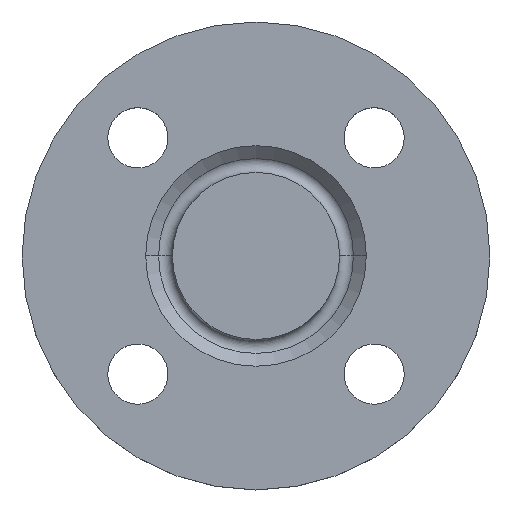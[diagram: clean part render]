
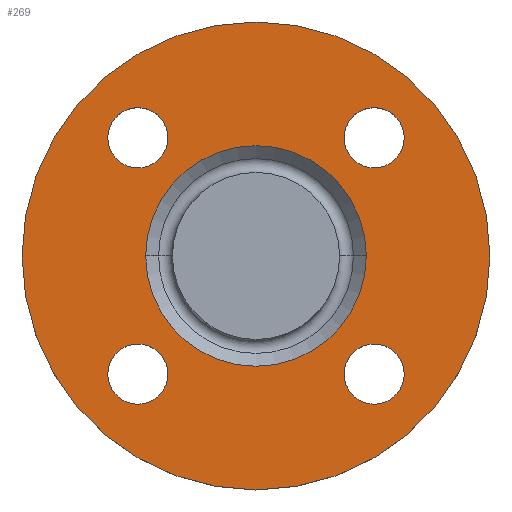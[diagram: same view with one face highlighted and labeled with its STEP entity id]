
A CAD part, top view. The second image highlights one B-rep face of the part: STEP entity #269.
In plain terms, the highlighted planar face has unit normal (0, 0, 1).
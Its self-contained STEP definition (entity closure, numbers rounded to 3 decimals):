
#12 = AXIS2_PLACEMENT_3D ( 'NONE', #438, #662, #146 ) ;
#15 = AXIS2_PLACEMENT_3D ( 'NONE', #148, #101, #336 ) ;
#27 = CARTESIAN_POINT ( 'NONE',  ( -35.355, 35.355, -2. ) ) ;
#30 = CARTESIAN_POINT ( 'NONE',  ( 35.355, 35.355, -2. ) ) ;
#43 = AXIS2_PLACEMENT_3D ( 'NONE', #199, #437, #661 ) ;
#45 = DIRECTION ( 'NONE',  ( 0., 0., -1. ) ) ;
#61 = ORIENTED_EDGE ( 'NONE', *, *, #499, .T. ) ;
#62 = EDGE_LOOP ( 'NONE', ( #95, #61 ) ) ;
#68 = ORIENTED_EDGE ( 'NONE', *, *, #669, .T. ) ;
#73 = AXIS2_PLACEMENT_3D ( 'NONE', #30, #270, #495 ) ;
#75 = CARTESIAN_POINT ( 'NONE',  ( 70., 0., -2. ) ) ;
#78 = CARTESIAN_POINT ( 'NONE',  ( -44.355, 35.355, -2. ) ) ;
#83 = DIRECTION ( 'NONE',  ( -1., 0., 0. ) ) ;
#90 = ORIENTED_EDGE ( 'NONE', *, *, #655, .T. ) ;
#94 = EDGE_CURVE ( 'NONE', #402, #212, #279, .T. ) ;
#95 = ORIENTED_EDGE ( 'NONE', *, *, #597, .T. ) ;
#101 = DIRECTION ( 'NONE',  ( 0., 0., -1. ) ) ;
#102 = AXIS2_PLACEMENT_3D ( 'NONE', #376, #602, #83 ) ;
#114 = DIRECTION ( 'NONE',  ( 0., 0., -1. ) ) ;
#115 = CARTESIAN_POINT ( 'NONE',  ( 0., 0., -2. ) ) ;
#116 = CIRCLE ( 'NONE', #215, 70. ) ;
#118 = ORIENTED_EDGE ( 'NONE', *, *, #436, .F. ) ;
#124 = CARTESIAN_POINT ( 'NONE',  ( 44.355, -35.355, -2. ) ) ;
#128 = VERTEX_POINT ( 'NONE', #289 ) ;
#138 = FACE_BOUND ( 'NONE', #724, .T. ) ;
#146 = DIRECTION ( 'NONE',  ( -1., 0., 0. ) ) ;
#148 = CARTESIAN_POINT ( 'NONE',  ( -35.355, 35.355, -2. ) ) ;
#153 = CIRCLE ( 'NONE', #562, 9. ) ;
#162 = CARTESIAN_POINT ( 'NONE',  ( 35.355, -35.355, -2. ) ) ;
#164 = CARTESIAN_POINT ( 'NONE',  ( 35.355, -35.355, -2. ) ) ;
#172 = EDGE_LOOP ( 'NONE', ( #296, #316 ) ) ;
#177 = DIRECTION ( 'NONE',  ( 1., 0., 0. ) ) ;
#191 = CARTESIAN_POINT ( 'NONE',  ( 26.355, -35.355, -2. ) ) ;
#192 = FACE_BOUND ( 'NONE', #62, .T. ) ;
#197 = EDGE_LOOP ( 'NONE', ( #538, #118 ) ) ;
#198 = EDGE_CURVE ( 'NONE', #209, #715, #528, .T. ) ;
#199 = CARTESIAN_POINT ( 'NONE',  ( -35.355, -35.355, -2. ) ) ;
#206 = AXIS2_PLACEMENT_3D ( 'NONE', #115, #351, #577 ) ;
#209 = VERTEX_POINT ( 'NONE', #417 ) ;
#212 = VERTEX_POINT ( 'NONE', #124 ) ;
#215 = AXIS2_PLACEMENT_3D ( 'NONE', #628, #114, #349 ) ;
#224 = CIRCLE ( 'NONE', #650, 9. ) ;
#248 = CIRCLE ( 'NONE', #12, 33. ) ;
#266 = DIRECTION ( 'NONE',  ( 0., 0., -1. ) ) ;
#269 = ADVANCED_FACE ( 'NONE', ( #711, #192, #428, #651, #138, #365 ), #594, .T. ) ;
#270 = DIRECTION ( 'NONE',  ( 0., 0., -1. ) ) ;
#272 = AXIS2_PLACEMENT_3D ( 'NONE', #564, #45, #285 ) ;
#279 = CIRCLE ( 'NONE', #697, 9. ) ;
#285 = DIRECTION ( 'NONE',  ( 1., 0., 0. ) ) ;
#289 = CARTESIAN_POINT ( 'NONE',  ( -44.355, -35.355, -2. ) ) ;
#291 = ORIENTED_EDGE ( 'NONE', *, *, #198, .T. ) ;
#296 = ORIENTED_EDGE ( 'NONE', *, *, #485, .T. ) ;
#308 = ORIENTED_EDGE ( 'NONE', *, *, #435, .T. ) ;
#315 = DIRECTION ( 'NONE',  ( 0., 0., 1. ) ) ;
#316 = ORIENTED_EDGE ( 'NONE', *, *, #375, .T. ) ;
#321 = CARTESIAN_POINT ( 'NONE',  ( 44.355, 35.355, -2. ) ) ;
#324 = CIRCLE ( 'NONE', #733, 9. ) ;
#325 = EDGE_CURVE ( 'NONE', #386, #412, #116, .T. ) ;
#336 = DIRECTION ( 'NONE',  ( 1., 0., 0. ) ) ;
#337 = CIRCLE ( 'NONE', #15, 9. ) ;
#344 = CARTESIAN_POINT ( 'NONE',  ( 33., 0., -2. ) ) ;
#349 = DIRECTION ( 'NONE',  ( -1., 0., 0. ) ) ;
#351 = DIRECTION ( 'NONE',  ( 0., 0., -1. ) ) ;
#358 = VERTEX_POINT ( 'NONE', #575 ) ;
#365 = FACE_OUTER_BOUND ( 'NONE', #197, .T. ) ;
#372 = ORIENTED_EDGE ( 'NONE', *, *, #639, .T. ) ;
#375 = EDGE_CURVE ( 'NONE', #491, #623, #324, .T. ) ;
#376 = CARTESIAN_POINT ( 'NONE',  ( 0., 0., -2. ) ) ;
#378 = ORIENTED_EDGE ( 'NONE', *, *, #94, .T. ) ;
#383 = CIRCLE ( 'NONE', #43, 9. ) ;
#386 = VERTEX_POINT ( 'NONE', #474 ) ;
#389 = AXIS2_PLACEMENT_3D ( 'NONE', #75, #315, #540 ) ;
#395 = DIRECTION ( 'NONE',  ( 0., 0., -1. ) ) ;
#398 = CIRCLE ( 'NONE', #73, 9. ) ;
#399 = DIRECTION ( 'NONE',  ( 0., 0., -1. ) ) ;
#402 = VERTEX_POINT ( 'NONE', #191 ) ;
#412 = VERTEX_POINT ( 'NONE', #592 ) ;
#417 = CARTESIAN_POINT ( 'NONE',  ( -33., 0., -2. ) ) ;
#428 = FACE_BOUND ( 'NONE', #432, .T. ) ;
#432 = EDGE_LOOP ( 'NONE', ( #372, #90 ) ) ;
#435 = EDGE_CURVE ( 'NONE', #715, #209, #248, .T. ) ;
#436 = EDGE_CURVE ( 'NONE', #412, #386, #445, .T. ) ;
#437 = DIRECTION ( 'NONE',  ( 0., 0., -1. ) ) ;
#438 = CARTESIAN_POINT ( 'NONE',  ( 0., 0., -2. ) ) ;
#445 = CIRCLE ( 'NONE', #102, 70. ) ;
#456 = VERTEX_POINT ( 'NONE', #607 ) ;
#458 = EDGE_LOOP ( 'NONE', ( #68, #378 ) ) ;
#467 = CARTESIAN_POINT ( 'NONE',  ( 35.355, 35.355, -2. ) ) ;
#474 = CARTESIAN_POINT ( 'NONE',  ( 70., 0., -2. ) ) ;
#485 = EDGE_CURVE ( 'NONE', #623, #491, #398, .T. ) ;
#491 = VERTEX_POINT ( 'NONE', #722 ) ;
#493 = DIRECTION ( 'NONE',  ( 1., 0., 0. ) ) ;
#495 = DIRECTION ( 'NONE',  ( 1., 0., 0. ) ) ;
#499 = EDGE_CURVE ( 'NONE', #128, #456, #593, .T. ) ;
#528 = CIRCLE ( 'NONE', #206, 33. ) ;
#538 = ORIENTED_EDGE ( 'NONE', *, *, #325, .F. ) ;
#540 = DIRECTION ( 'NONE',  ( 1., 0., 0. ) ) ;
#562 = AXIS2_PLACEMENT_3D ( 'NONE', #27, #266, #493 ) ;
#564 = CARTESIAN_POINT ( 'NONE',  ( -35.355, -35.355, -2. ) ) ;
#573 = VERTEX_POINT ( 'NONE', #78 ) ;
#575 = CARTESIAN_POINT ( 'NONE',  ( -26.355, 35.355, -2. ) ) ;
#577 = DIRECTION ( 'NONE',  ( -1., 0., 0. ) ) ;
#592 = CARTESIAN_POINT ( 'NONE',  ( -70., 0., -2. ) ) ;
#593 = CIRCLE ( 'NONE', #272, 9. ) ;
#594 = PLANE ( 'NONE',  #389 ) ;
#597 = EDGE_CURVE ( 'NONE', #456, #128, #383, .T. ) ;
#602 = DIRECTION ( 'NONE',  ( 0., 0., -1. ) ) ;
#607 = CARTESIAN_POINT ( 'NONE',  ( -26.355, -35.355, -2. ) ) ;
#618 = DIRECTION ( 'NONE',  ( 1., 0., 0. ) ) ;
#620 = DIRECTION ( 'NONE',  ( 1., 0., 0. ) ) ;
#623 = VERTEX_POINT ( 'NONE', #321 ) ;
#628 = CARTESIAN_POINT ( 'NONE',  ( 0., 0., -2. ) ) ;
#639 = EDGE_CURVE ( 'NONE', #358, #573, #153, .T. ) ;
#650 = AXIS2_PLACEMENT_3D ( 'NONE', #164, #399, #620 ) ;
#651 = FACE_BOUND ( 'NONE', #172, .T. ) ;
#655 = EDGE_CURVE ( 'NONE', #573, #358, #337, .T. ) ;
#661 = DIRECTION ( 'NONE',  ( 1., 0., 0. ) ) ;
#662 = DIRECTION ( 'NONE',  ( 0., 0., -1. ) ) ;
#669 = EDGE_CURVE ( 'NONE', #212, #402, #224, .T. ) ;
#696 = DIRECTION ( 'NONE',  ( 0., 0., -1. ) ) ;
#697 = AXIS2_PLACEMENT_3D ( 'NONE', #162, #395, #618 ) ;
#711 = FACE_BOUND ( 'NONE', #458, .T. ) ;
#715 = VERTEX_POINT ( 'NONE', #344 ) ;
#722 = CARTESIAN_POINT ( 'NONE',  ( 26.355, 35.355, -2. ) ) ;
#724 = EDGE_LOOP ( 'NONE', ( #308, #291 ) ) ;
#733 = AXIS2_PLACEMENT_3D ( 'NONE', #467, #696, #177 ) ;
